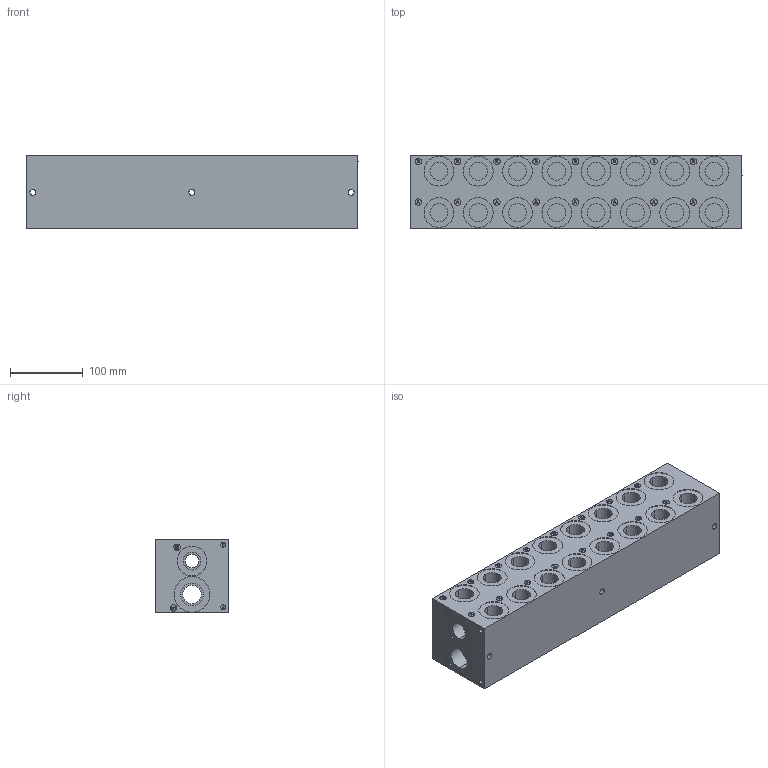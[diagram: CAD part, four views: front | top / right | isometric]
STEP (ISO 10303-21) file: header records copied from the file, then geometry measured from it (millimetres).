
FILE_DESCRIPTION (( 'STEP AP203' ), '1' );
FILE_NAME ('BMR-AHP03S2-08-1_Z.STEP', '2015-01-06T15:24:20', ( '' ), ( '' ), 'SwSTEP 2.0', 'SolidWorks 2014', '' );
FILE_SCHEMA (( 'CONFIG_CONTROL_DESIGN' ));
Length unit declared in the file: inch
Products named in the file (1): BMR-AHP03S2-08-1_Z
Bounding box: 457.2 x 101.6 x 101.6 mm (x, y, z)
Volume: 4148524.6 mm3; surface area: 314891.9 mm2
Topology: 1 solids, 1 shells, 983 faces, 2350 edges, 1440 vertices
Faces by surface type: plane 387, cylinder 352, cone 152, bspline 92
Entity records: 32595 total; most frequent: CARTESIAN_POINT 10474, DIRECTION 4502, ORIENTED_EDGE 4396, EDGE_CURVE 2198, AXIS2_PLACEMENT_3D 1596, VERTEX_POINT 1440, LINE 1310, VECTOR 1310
